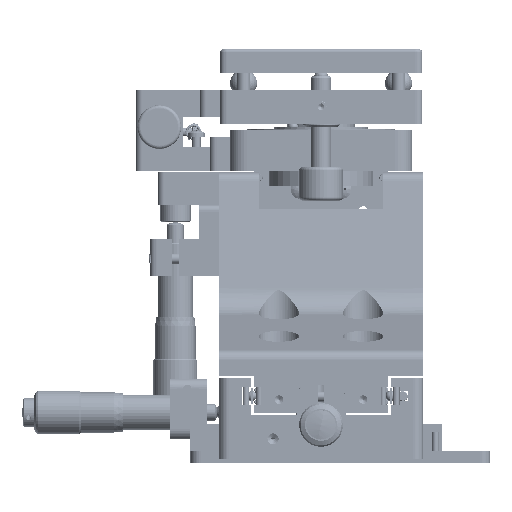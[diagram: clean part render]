
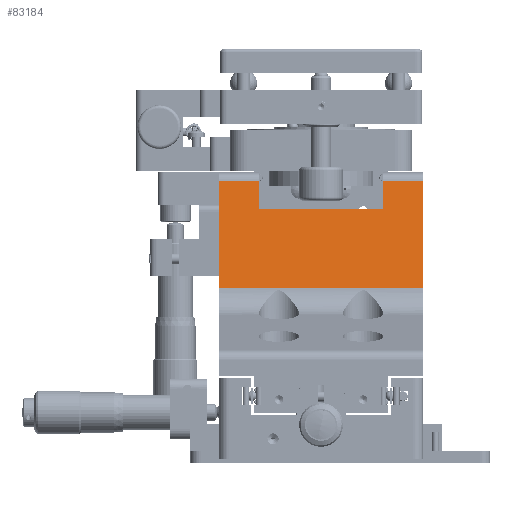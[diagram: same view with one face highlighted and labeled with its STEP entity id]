
A CAD part, front view. The second image highlights one B-rep face of the part: STEP entity #83184.
In plain terms, the highlighted planar face has unit normal (0, -0.985, 0.174).
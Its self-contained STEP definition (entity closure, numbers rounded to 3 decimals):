
#1493 = ORIENTED_EDGE ( 'NONE', *, *, #67772, .T. ) ;
#3607 = VECTOR ( 'NONE', #106356, 1000. ) ;
#5613 = DIRECTION ( 'NONE',  ( 0., -0.174, -0.985 ) ) ;
#5898 = DIRECTION ( 'NONE',  ( -1., 0., 0. ) ) ;
#8978 = LINE ( 'NONE', #78110, #44666 ) ;
#10704 = EDGE_CURVE ( 'NONE', #40722, #47506, #45826, .T. ) ;
#12286 = CARTESIAN_POINT ( 'NONE',  ( -35.946, 19.467, 86.3 ) ) ;
#13741 = ORIENTED_EDGE ( 'NONE', *, *, #146238, .T. ) ;
#17631 = PLANE ( 'NONE',  #22411 ) ;
#22411 = AXIS2_PLACEMENT_3D ( 'NONE', #90654, #45371, #70047 ) ;
#28264 = VECTOR ( 'NONE', #143190, 1000. ) ;
#29541 = CARTESIAN_POINT ( 'NONE',  ( 24.554, 17.527, 75.3 ) ) ;
#29832 = VERTEX_POINT ( 'NONE', #61602 ) ;
#31755 = LINE ( 'NONE', #12286, #3607 ) ;
#31922 = VERTEX_POINT ( 'NONE', #121777 ) ;
#35874 = CARTESIAN_POINT ( 'NONE',  ( 24.554, 19.03, 83.821 ) ) ;
#37286 = DIRECTION ( 'NONE',  ( 0., 0.174, 0.985 ) ) ;
#40722 = VERTEX_POINT ( 'NONE', #155565 ) ;
#42552 = EDGE_CURVE ( 'NONE', #132311, #83255, #97659, .T. ) ;
#44621 = EDGE_CURVE ( 'NONE', #94875, #140000, #8978, .T. ) ;
#44666 = VECTOR ( 'NONE', #5613, 1000. ) ;
#45371 = DIRECTION ( 'NONE',  ( 0., 0.985, -0.174 ) ) ;
#45826 = LINE ( 'NONE', #60215, #145795 ) ;
#47506 = VERTEX_POINT ( 'NONE', #138378 ) ;
#56955 = LINE ( 'NONE', #109866, #70083 ) ;
#58639 = DIRECTION ( 'NONE',  ( 1., 0., 0. ) ) ;
#59365 = LINE ( 'NONE', #154446, #78238 ) ;
#60215 = CARTESIAN_POINT ( 'NONE',  ( 12.804, 19.467, 86.3 ) ) ;
#61602 = CARTESIAN_POINT ( 'NONE',  ( -35.946, 13.399, 51.889 ) ) ;
#63649 = VECTOR ( 'NONE', #111311, 1000. ) ;
#64248 = EDGE_CURVE ( 'NONE', #29832, #140000, #59365, .T. ) ;
#64387 = LINE ( 'NONE', #29541, #137745 ) ;
#65186 = ORIENTED_EDGE ( 'NONE', *, *, #143870, .T. ) ;
#67772 = EDGE_CURVE ( 'NONE', #47506, #31922, #64387, .T. ) ;
#69524 = CARTESIAN_POINT ( 'NONE',  ( -35.946, 19.03, 83.821 ) ) ;
#70047 = DIRECTION ( 'NONE',  ( 0., 0.174, 0.985 ) ) ;
#70083 = VECTOR ( 'NONE', #37286, 1000. ) ;
#71174 = CARTESIAN_POINT ( 'NONE',  ( 24.554, 13.399, 51.889 ) ) ;
#73358 = EDGE_CURVE ( 'NONE', #94875, #40722, #146890, .T. ) ;
#75204 = CARTESIAN_POINT ( 'NONE',  ( 24.554, 19.03, 83.821 ) ) ;
#75524 = CARTESIAN_POINT ( 'NONE',  ( 24.554, 19.03, 83.821 ) ) ;
#78110 = CARTESIAN_POINT ( 'NONE',  ( 24.554, 19.467, 86.3 ) ) ;
#78238 = VECTOR ( 'NONE', #58639, 1000. ) ;
#79855 = ORIENTED_EDGE ( 'NONE', *, *, #10704, .T. ) ;
#82721 = ORIENTED_EDGE ( 'NONE', *, *, #73358, .T. ) ;
#83184 = ADVANCED_FACE ( 'NONE', ( #132487 ), #17631, .F. ) ;
#83255 = VERTEX_POINT ( 'NONE', #69524 ) ;
#88681 = ORIENTED_EDGE ( 'NONE', *, *, #64248, .T. ) ;
#90654 = CARTESIAN_POINT ( 'NONE',  ( 24.554, 19.467, 86.3 ) ) ;
#94348 = ORIENTED_EDGE ( 'NONE', *, *, #42552, .T. ) ;
#94875 = VERTEX_POINT ( 'NONE', #75204 ) ;
#97659 = LINE ( 'NONE', #75524, #63649 ) ;
#106356 = DIRECTION ( 'NONE',  ( 0., -0.174, -0.985 ) ) ;
#109866 = CARTESIAN_POINT ( 'NONE',  ( -24.196, 19.467, 86.3 ) ) ;
#111311 = DIRECTION ( 'NONE',  ( -1., 0., 0. ) ) ;
#121777 = CARTESIAN_POINT ( 'NONE',  ( -24.196, 17.527, 75.3 ) ) ;
#124750 = CARTESIAN_POINT ( 'NONE',  ( -24.196, 19.03, 83.821 ) ) ;
#132161 = ORIENTED_EDGE ( 'NONE', *, *, #44621, .F. ) ;
#132311 = VERTEX_POINT ( 'NONE', #124750 ) ;
#132487 = FACE_OUTER_BOUND ( 'NONE', #154786, .T. ) ;
#137745 = VECTOR ( 'NONE', #5898, 1000. ) ;
#138378 = CARTESIAN_POINT ( 'NONE',  ( 12.804, 17.527, 75.3 ) ) ;
#140000 = VERTEX_POINT ( 'NONE', #71174 ) ;
#143190 = DIRECTION ( 'NONE',  ( -1., 0., 0. ) ) ;
#143870 = EDGE_CURVE ( 'NONE', #31922, #132311, #56955, .T. ) ;
#144437 = DIRECTION ( 'NONE',  ( 0., -0.174, -0.985 ) ) ;
#145795 = VECTOR ( 'NONE', #144437, 1000. ) ;
#146238 = EDGE_CURVE ( 'NONE', #83255, #29832, #31755, .T. ) ;
#146890 = LINE ( 'NONE', #35874, #28264 ) ;
#154446 = CARTESIAN_POINT ( 'NONE',  ( 24.554, 13.399, 51.889 ) ) ;
#154786 = EDGE_LOOP ( 'NONE', ( #82721, #79855, #1493, #65186, #94348, #13741, #88681, #132161 ) ) ;
#155565 = CARTESIAN_POINT ( 'NONE',  ( 12.804, 19.03, 83.821 ) ) ;
